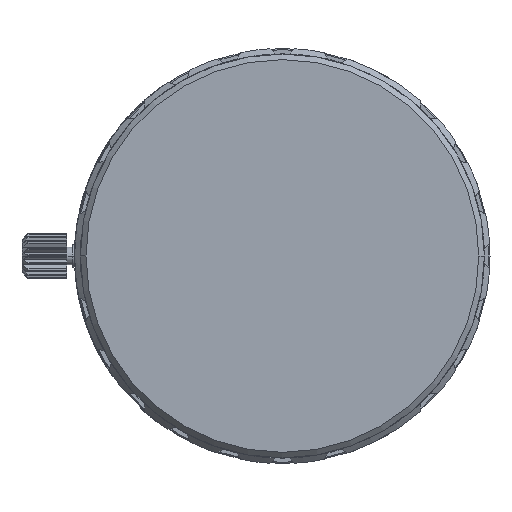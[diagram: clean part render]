
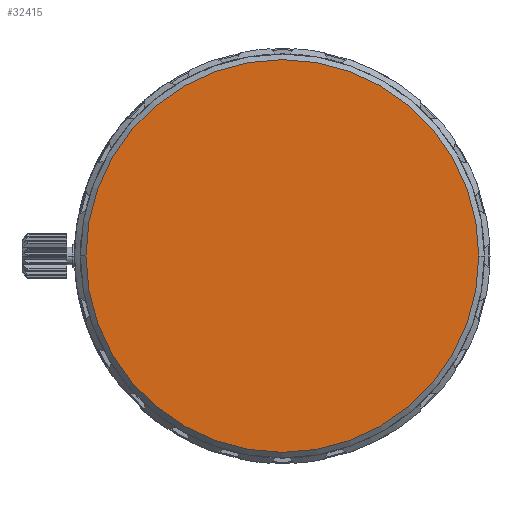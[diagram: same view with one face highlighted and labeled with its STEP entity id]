
A CAD part, left-side view. The second image highlights one B-rep face of the part: STEP entity #32415.
In plain terms, the highlighted planar face has unit normal (-1, 0, 0).
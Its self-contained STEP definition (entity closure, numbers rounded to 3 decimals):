
#11033=CARTESIAN_POINT('',(-46.316,0.,0.));
#11034=DIRECTION('',(1.,0.,0.));
#11035=DIRECTION('',(0.,-1.,0.));
#11036=AXIS2_PLACEMENT_3D('',#11033,#11034,#11035);
#11038=CARTESIAN_POINT('',(-46.316,0.,0.));
#11039=DIRECTION('',(1.,0.,0.));
#11040=DIRECTION('',(0.,0.,-1.));
#11041=AXIS2_PLACEMENT_3D('',#11038,#11039,#11040);
#11043=CARTESIAN_POINT('',(-46.316,0.,0.));
#11044=DIRECTION('',(1.,0.,0.));
#11045=DIRECTION('',(0.,1.,0.));
#11046=AXIS2_PLACEMENT_3D('',#11043,#11044,#11045);
#11048=CARTESIAN_POINT('',(-46.316,0.,0.));
#11049=DIRECTION('',(1.,0.,0.));
#11050=DIRECTION('',(0.,0.,1.));
#11051=AXIS2_PLACEMENT_3D('',#11048,#11049,#11050);
#20522=CARTESIAN_POINT('',(-46.316,0.,17.5));
#20523=CARTESIAN_POINT('',(-46.316,-17.5,0.));
#20524=VERTEX_POINT('',#20522);
#20525=VERTEX_POINT('',#20523);
#20526=CARTESIAN_POINT('',(-46.316,17.5,0.));
#20527=VERTEX_POINT('',#20526);
#20528=CARTESIAN_POINT('',(-46.316,0.,-17.5));
#20529=VERTEX_POINT('',#20528);
#32402=CARTESIAN_POINT('',(-46.316,0.,0.));
#32403=DIRECTION('',(1.,0.,0.));
#32404=DIRECTION('',(0.,-1.,0.));
#32405=AXIS2_PLACEMENT_3D('',#32402,#32403,#32404);
#32406=PLANE('',#32405);
#32408=ORIENTED_EDGE('',*,*,#32407,.T.);
#32410=ORIENTED_EDGE('',*,*,#32409,.T.);
#32411=ORIENTED_EDGE('',*,*,#32391,.T.);
#32412=ORIENTED_EDGE('',*,*,#32389,.T.);
#32413=EDGE_LOOP('',(#32408,#32410,#32411,#32412));
#32414=FACE_OUTER_BOUND('',#32413,.F.);
#11037=CIRCLE('',#11036,17.5);
#11042=CIRCLE('',#11041,17.5);
#11047=CIRCLE('',#11046,17.5);
#11052=CIRCLE('',#11051,17.5);
#32389=EDGE_CURVE('',#20524,#20525,#11052,.T.);
#32391=EDGE_CURVE('',#20527,#20524,#11047,.T.);
#32407=EDGE_CURVE('',#20525,#20529,#11037,.T.);
#32409=EDGE_CURVE('',#20529,#20527,#11042,.T.);
#32415=ADVANCED_FACE('',(#32414),#32406,.F.);
